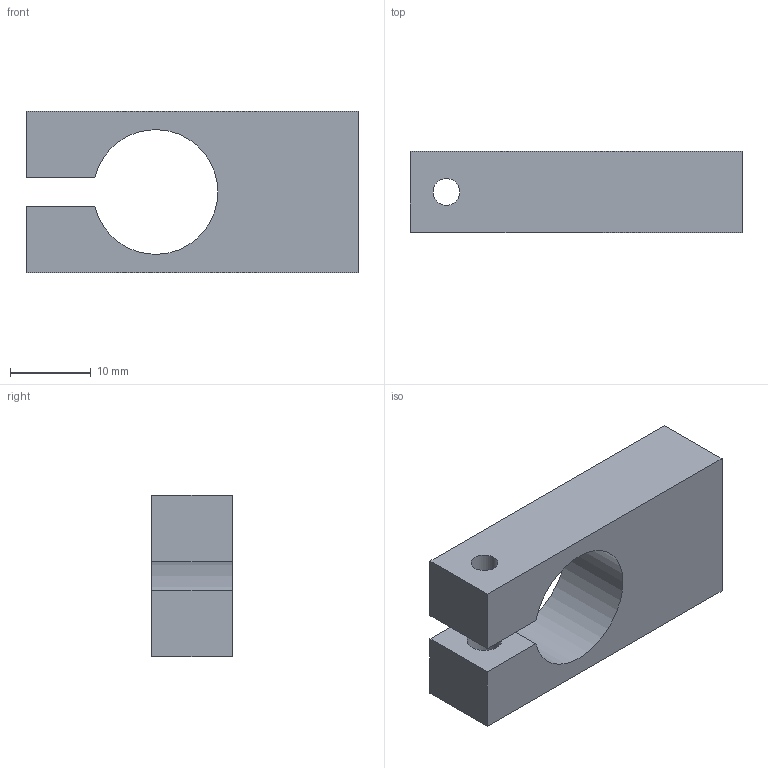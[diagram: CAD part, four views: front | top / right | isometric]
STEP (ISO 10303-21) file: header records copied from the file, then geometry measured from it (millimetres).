
FILE_DESCRIPTION (( 'STEP AP214' ), '1' );
FILE_NAME ('Klemmaufnahme_v2.STEP', '2021-07-30T09:25:58', ( '' ), ( '' ), 'SwSTEP 2.0', 'SolidWorks 2021', '' );
FILE_SCHEMA (( 'AUTOMOTIVE_DESIGN' ));
Length unit declared in the file: millimetre
Products named in the file (1): Klemmaufnahme_v2
Bounding box: 41 x 10 x 20 mm (x, y, z)
Volume: 5209.8 mm3; surface area: 3678.9 mm2
Topology: 1 solids, 1 shells, 20 faces, 48 edges, 31 vertices
Faces by surface type: plane 10, cylinder 7, cone 3
Full cylindrical faces by diameter (mm): 3.3 x3, 4.3 x1, 5 x1, 8 x1
Entity records: 596 total; most frequent: DIRECTION 92, CARTESIAN_POINT 85, ORIENTED_EDGE 72, EDGE_CURVE 36, AXIS2_PLACEMENT_3D 35, EDGE_LOOP 34, VERTEX_POINT 28, FACE_OUTER_BOUND 26
